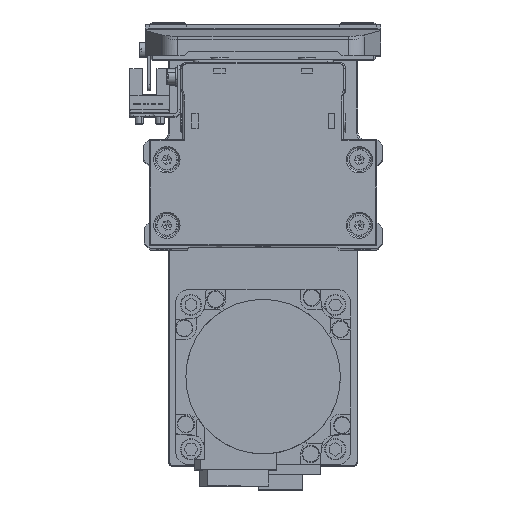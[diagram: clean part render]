
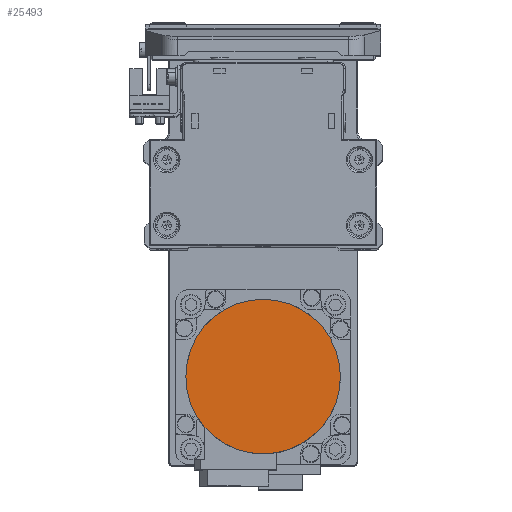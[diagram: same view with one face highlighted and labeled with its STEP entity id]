
A CAD part, top view. The second image highlights one B-rep face of the part: STEP entity #25493.
In plain terms, the highlighted planar face has unit normal (0, 0, 1) as drawn and (0, 0, -1) by its records, which use the part's own axes.
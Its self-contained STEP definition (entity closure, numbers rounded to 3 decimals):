
#2285 = PLANE ( 'NONE',  #24386 ) ;
#4040 = DIRECTION ( 'NONE',  ( 1., 0., 0. ) ) ;
#4751 = AXIS2_PLACEMENT_3D ( 'NONE', #19507, #31945, #4040 ) ;
#5920 = CARTESIAN_POINT ( 'NONE',  ( 0., 0., -109.7 ) ) ;
#10068 = AXIS2_PLACEMENT_3D ( 'NONE', #5920, #18324, #30772 ) ;
#11900 = ORIENTED_EDGE ( 'NONE', *, *, #29262, .F. ) ;
#14697 = CARTESIAN_POINT ( 'NONE',  ( 0., 0., -109.7 ) ) ;
#15000 = EDGE_LOOP ( 'NONE', ( #34460, #11900 ) ) ;
#15546 = VERTEX_POINT ( 'NONE', #34162 ) ;
#18324 = DIRECTION ( 'NONE',  ( 0., 0., 1. ) ) ;
#19507 = CARTESIAN_POINT ( 'NONE',  ( 0., 0., -109.7 ) ) ;
#22311 = CIRCLE ( 'NONE', #4751, 26.5 ) ;
#24386 = AXIS2_PLACEMENT_3D ( 'NONE', #14697, #27142, #39551 ) ;
#25493 = ADVANCED_FACE ( 'NONE', ( #30171 ), #2285, .F. ) ;
#25544 = EDGE_CURVE ( 'NONE', #15546, #39487, #27642, .T. ) ;
#27142 = DIRECTION ( 'NONE',  ( 0., 0., 1. ) ) ;
#27248 = CARTESIAN_POINT ( 'NONE',  ( 26.5, 0., -109.7 ) ) ;
#27642 = CIRCLE ( 'NONE', #10068, 26.5 ) ;
#29262 = EDGE_CURVE ( 'NONE', #39487, #15546, #22311, .T. ) ;
#30171 = FACE_OUTER_BOUND ( 'NONE', #15000, .T. ) ;
#30772 = DIRECTION ( 'NONE',  ( -1., 0., 0. ) ) ;
#31945 = DIRECTION ( 'NONE',  ( 0., 0., 1. ) ) ;
#34162 = CARTESIAN_POINT ( 'NONE',  ( -26.5, 0., -109.7 ) ) ;
#34460 = ORIENTED_EDGE ( 'NONE', *, *, #25544, .F. ) ;
#39487 = VERTEX_POINT ( 'NONE', #27248 ) ;
#39551 = DIRECTION ( 'NONE',  ( 1., 0., 0. ) ) ;
